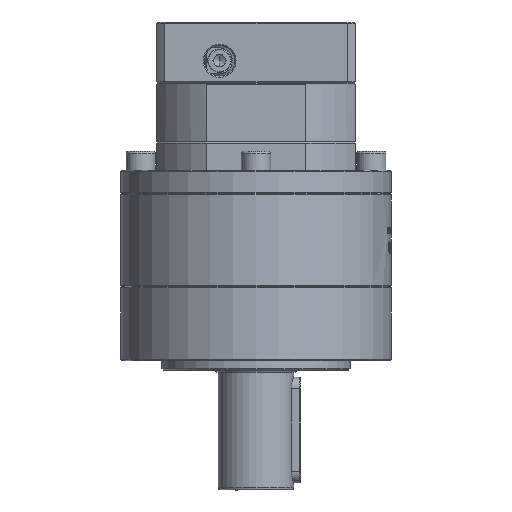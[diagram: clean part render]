
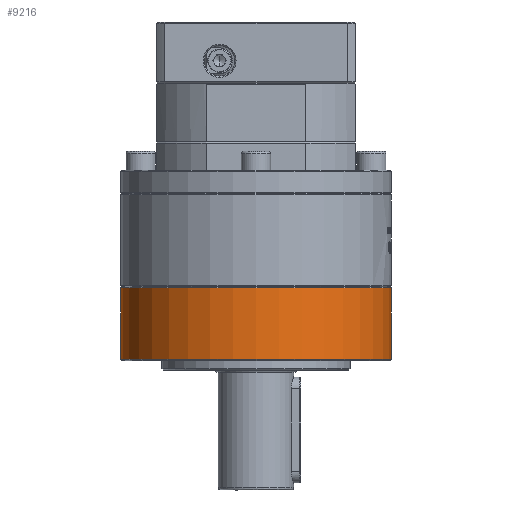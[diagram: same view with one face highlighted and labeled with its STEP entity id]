
A CAD part, left-side view. The second image highlights one B-rep face of the part: STEP entity #9216.
In plain terms, the highlighted cylindrical face has radius 57.5 mm (diameter 115 mm), a partial arc.
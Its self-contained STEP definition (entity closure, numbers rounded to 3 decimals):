
#834 = CYLINDRICAL_SURFACE ( 'NONE', #46054, 57.5 ) ;
#5697 = ORIENTED_EDGE ( 'NONE', *, *, #84150, .T. ) ;
#6416 = AXIS2_PLACEMENT_3D ( 'NONE', #49213, #76290, #114921 ) ;
#8831 = CARTESIAN_POINT ( 'NONE',  ( 92.668, -69.295, -100.585 ) ) ;
#9216 = ADVANCED_FACE ( 'NONE', ( #116866 ), #834, .T. ) ;
#13148 = CARTESIAN_POINT ( 'NONE',  ( 92.668, 45.705, -131.085 ) ) ;
#14235 = EDGE_CURVE ( 'NONE', #112353, #22386, #95152, .T. ) ;
#15590 = VERTEX_POINT ( 'NONE', #39204 ) ;
#18238 = ORIENTED_EDGE ( 'NONE', *, *, #71215, .F. ) ;
#22386 = VERTEX_POINT ( 'NONE', #60021 ) ;
#25326 = DIRECTION ( 'NONE',  ( 0., -1., 0. ) ) ;
#27558 = EDGE_LOOP ( 'NONE', ( #51608, #79602, #5697, #18238 ) ) ;
#39204 = CARTESIAN_POINT ( 'NONE',  ( 92.668, 45.705, -100.585 ) ) ;
#41659 = CARTESIAN_POINT ( 'NONE',  ( 92.668, -11.795, -118.585 ) ) ;
#46054 = AXIS2_PLACEMENT_3D ( 'NONE', #41659, #70379, #25326 ) ;
#47310 = EDGE_CURVE ( 'NONE', #112353, #15590, #53070, .T. ) ;
#47854 = VERTEX_POINT ( 'NONE', #8831 ) ;
#49213 = CARTESIAN_POINT ( 'NONE',  ( 92.668, -11.795, -131.085 ) ) ;
#51608 = ORIENTED_EDGE ( 'NONE', *, *, #47310, .F. ) ;
#53070 = LINE ( 'NONE', #72285, #114048 ) ;
#60021 = CARTESIAN_POINT ( 'NONE',  ( 92.668, -69.295, -131.085 ) ) ;
#62070 = DIRECTION ( 'NONE',  ( 0., 1., 0. ) ) ;
#62632 = LINE ( 'NONE', #103325, #84982 ) ;
#63493 = DIRECTION ( 'NONE',  ( 0., 0., 1. ) ) ;
#70379 = DIRECTION ( 'NONE',  ( 0., 0., 1. ) ) ;
#71215 = EDGE_CURVE ( 'NONE', #15590, #47854, #88152, .T. ) ;
#72285 = CARTESIAN_POINT ( 'NONE',  ( 92.668, 45.705, -118.585 ) ) ;
#76290 = DIRECTION ( 'NONE',  ( 0., 0., 1. ) ) ;
#79602 = ORIENTED_EDGE ( 'NONE', *, *, #14235, .T. ) ;
#84150 = EDGE_CURVE ( 'NONE', #22386, #47854, #62632, .T. ) ;
#84982 = VECTOR ( 'NONE', #104967, 1000. ) ;
#88152 = CIRCLE ( 'NONE', #114049, 57.5 ) ;
#90412 = DIRECTION ( 'NONE',  ( 0., 0., 1. ) ) ;
#95152 = CIRCLE ( 'NONE', #6416, 57.5 ) ;
#103325 = CARTESIAN_POINT ( 'NONE',  ( 92.668, -69.295, -118.585 ) ) ;
#104967 = DIRECTION ( 'NONE',  ( 0., 0., 1. ) ) ;
#112353 = VERTEX_POINT ( 'NONE', #13148 ) ;
#114048 = VECTOR ( 'NONE', #63493, 1000. ) ;
#114049 = AXIS2_PLACEMENT_3D ( 'NONE', #118599, #90412, #62070 ) ;
#114921 = DIRECTION ( 'NONE',  ( 0., -1., 0. ) ) ;
#116866 = FACE_OUTER_BOUND ( 'NONE', #27558, .T. ) ;
#118599 = CARTESIAN_POINT ( 'NONE',  ( 92.668, -11.795, -100.585 ) ) ;
